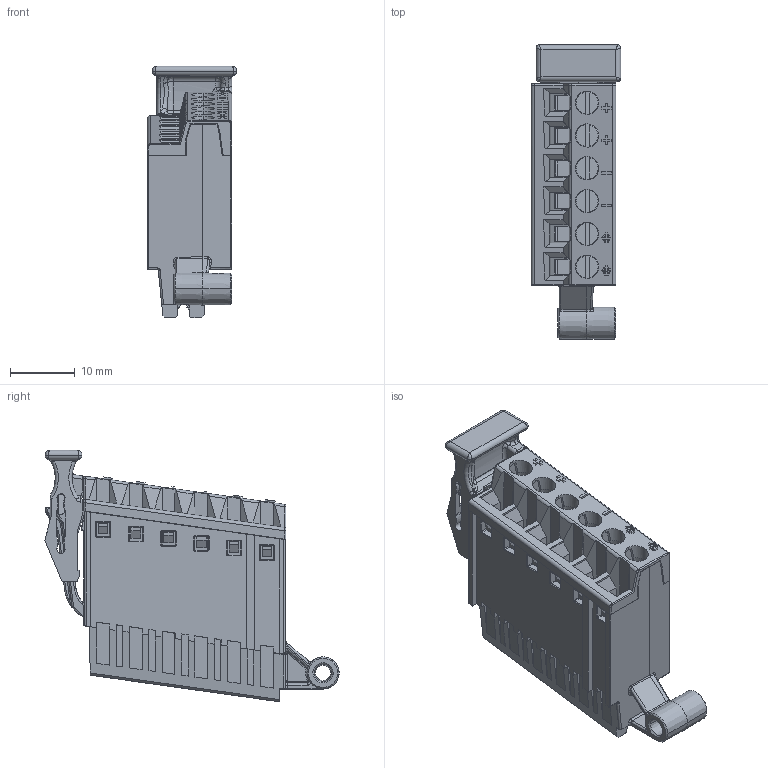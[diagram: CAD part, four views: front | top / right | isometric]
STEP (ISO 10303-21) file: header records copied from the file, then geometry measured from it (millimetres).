
FILE_DESCRIPTION((''),'2;1');
FILE_NAME('10001753215','2015-06-29T',('sreddy2'),('Rockwell Automation'),'PRO/ENGINEER BY PARAMETRIC TECHNOLOGY CORPORATION, 2012480','PRO/ENGINEER BY PARAMETRIC TECHNOLOGY CORPORATION, 2012480','');
FILE_SCHEMA(('CONFIG_CONTROL_DESIGN'));
Products named in the file (1): 10001753215
Bounding box: 13.85 x 45.59 x 38.96 mm (x, y, z)
Volume: 6489.8 mm3; surface area: 13600.8 mm2
Topology: 9 solids, 9 shells, 3811 faces, 10783 edges, 6989 vertices
Faces by surface type: plane 2188, cylinder 919, bspline 408, torus 128, cone 96, sphere 40, extrusion 20, revolution 12
Entity records: 140295 total; most frequent: CARTESIAN_POINT 44427, ORIENTED_EDGE 21446, DIRECTION 17855, EDGE_CURVE 10723, VECTOR 7057, LINE 7037, VERTEX_POINT 6989, AXIS2_PLACEMENT_3D 5393
